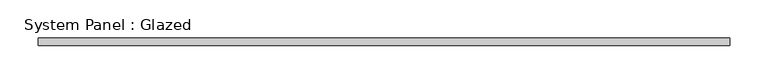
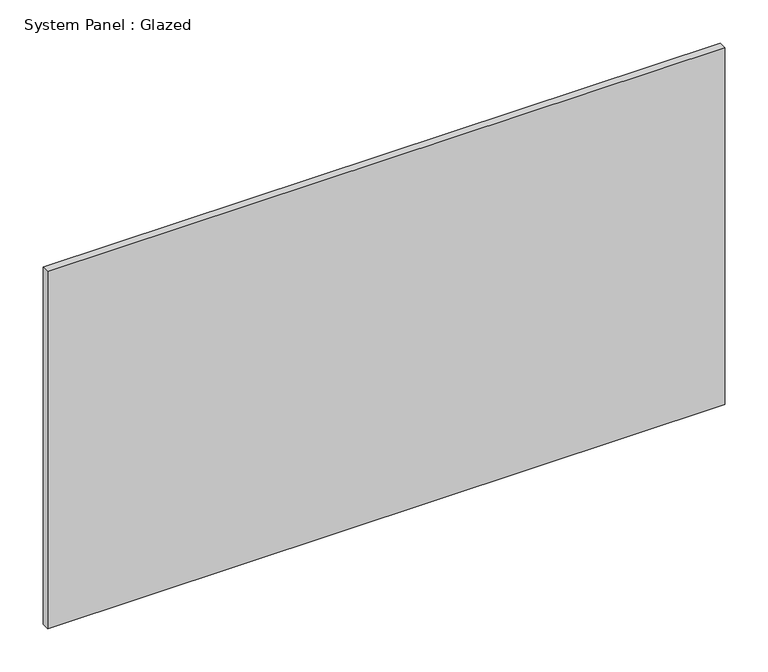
"""IFC4 building model written with IfcOpenShell, lengths in millimetres: plate geometry, System Panel : Glazed."""

from ifc_helpers import new_model, si_unit, origin, origin_with_axes, place, context, project, spatial, polyline, outline, extrude, source, transform, mapped, element, save


def system_panel_glazed_76269dd0(model_context):
    return source(origin(), model_context, "Body", "SweptSolid", [
        extrude(outline(polyline([(452.477915, -5.0), (-452.477915, -5.0), (-452.477915, 5.0), (452.477915, 5.0), (452.477915, -5.0)])), origin_with_axes(), (0.0, 0.0, 1.0), 505.0),
    ])


if __name__ == "__main__":
    model = new_model("IFC4")
    model_context = context("Model", 3, world=origin())
    ifc_project = project(units=[si_unit("LENGTHUNIT", "METRE", prefix="MILLI")], contexts=[model_context])
    site = spatial("IfcSite", under=ifc_project)
    building = spatial("IfcBuilding", under=site)
    placement = place(None, origin())
    system_panel_glazed_shape = system_panel_glazed_76269dd0(model_context)
    element("IfcPlate", 1, ObjectType="System Panel : Glazed", at=placement, inside=building, context=model_context, shape_type="MappedRepresentation", body=[
        mapped(system_panel_glazed_shape, transform((0.0, 0.0, 0.0), x_axis=(1.0, 0.0, 0.0), y_axis=(0.0, 1.0, 0.0), z_axis=(0.0, 0.0, 1.0))),
    ])
    save(model, "model.ifc")
